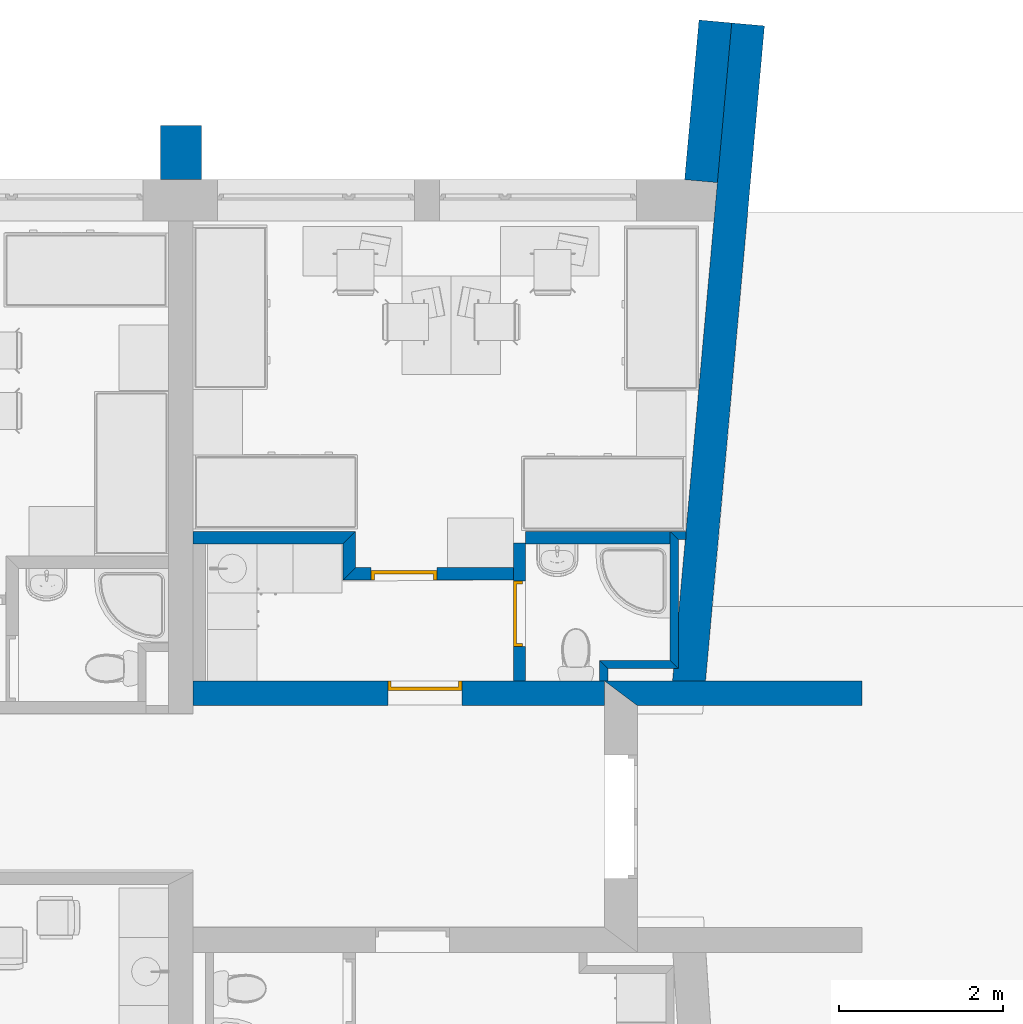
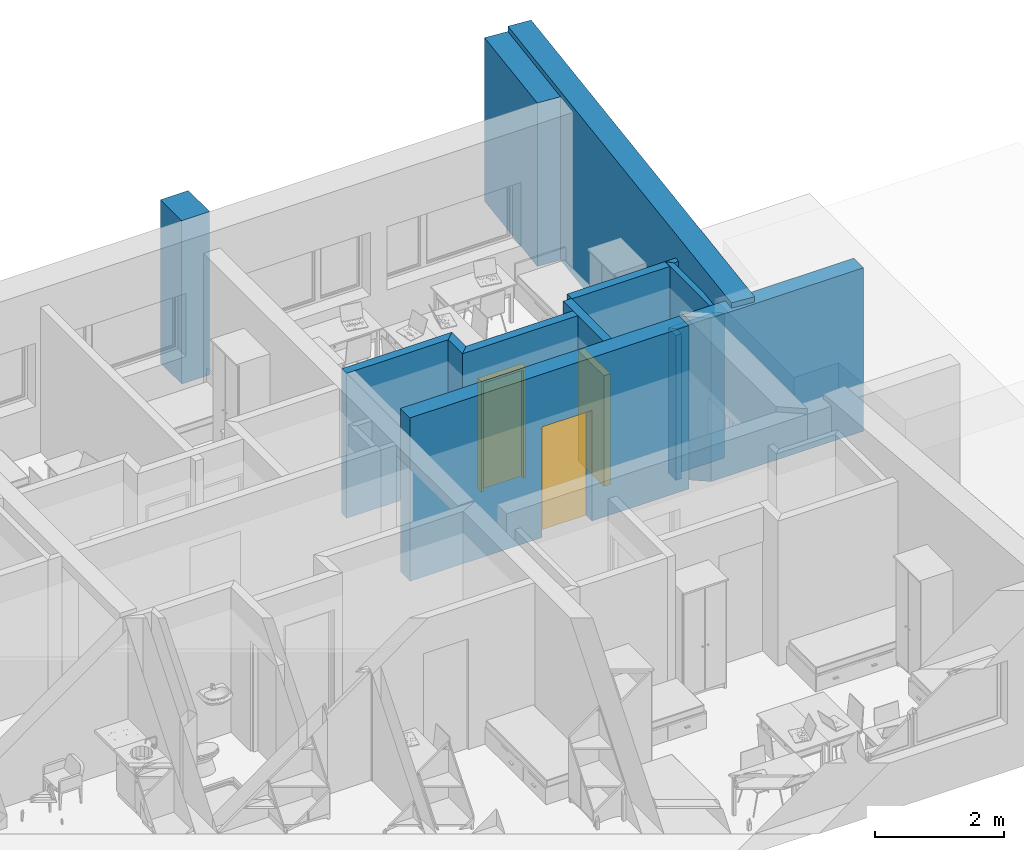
# One storey, part 36 of 172: 14 walls, 3 doors, 3 openings.
"""IFC2X3 building model written with IfcOpenShell, lengths in millimetres."""

import ifcopenshell
import ifcopenshell.guid

model = None  # the IFC model being written
_history = None  # IfcOwnerHistory: only IFC2X3 demands one
_inside = {}  # id of a spatial element -> (the spatial element, [elements in it])
_under = {}  # id of a project, library or spatial element -> (it, [spatial elements below it])
_declared = {}  # id of a project -> (the project, [libraries it declares])
_typed = {}  # id of a type object -> (the type object, [elements of that type])
_made_of = {}  # id of a material, layer set ... -> (it, [elements and type objects made of it])


def new_model(schema):
    """Start an empty IFC model of exactly this schema.

    Asked for "IFC4X3", IfcOpenShell would pick the latest addendum, in which some entities
    have other attributes; the version numbers below select the first issue.
    IFC2X3 requires an IfcOwnerHistory on every rooted entity: one is made here for all.
    """
    global model, _history
    if schema == "IFC4X3":
        model = ifcopenshell.file(schema_version=(4, 3, 0, 0))
    else:
        model = ifcopenshell.file(schema=schema)
    _inside.clear()
    _under.clear()
    _declared.clear()
    _typed.clear()
    _made_of.clear()
    _history = None
    if model.schema == "IFC2X3":
        org = make("IfcOrganization", Name="unknown")
        user = make(
            "IfcPersonAndOrganization",
            ThePerson=make("IfcPerson", FamilyName="unknown"),
            TheOrganization=org,
        )
        app = make(
            "IfcApplication",
            ApplicationDeveloper=org,
            Version="unknown",
            ApplicationFullName="unknown",
            ApplicationIdentifier="unknown",
        )
        _history = make(
            "IfcOwnerHistory",
            OwningUser=user,
            OwningApplication=app,
            ChangeAction="ADDED",
            CreationDate=0,
        )
    return model


def make(cls, **values):
    """One entity of the class cls with the attributes given. An attribute that is None is left unset."""
    return model.create_entity(
        cls, **{name: value for name, value in values.items() if value is not None}
    )


def entity(cls, *values):
    """Any entity or typed value of the class cls, its attributes in the order of the schema. None: left unset."""
    e = model.create_entity(cls)
    for i, value in enumerate(values):
        if value is not None:
            e[i] = value
    return e


def rooted(cls, **values):
    """An entity with a GlobalId (a new one), such as an element, a storey or a relation."""
    return make(cls, GlobalId=ifcopenshell.guid.new(), OwnerHistory=_history, **values)


def si_unit(unit_type, name, prefix=None):
    """IfcSIUnit, for example si_unit("LENGTHUNIT", "METRE", prefix="MILLI")."""
    return make("IfcSIUnit", UnitType=unit_type, Prefix=prefix, Name=name)


def converted_unit(unit_type, name, factor, base, dimensions=None, offset=None):
    """IfcConversionBasedUnit, such as the inch: factor (a typed value) times the base unit."""
    return make(
        "IfcConversionBasedUnit"
        if offset is None
        else "IfcConversionBasedUnitWithOffset",
        ConversionOffset=offset,
        Dimensions=None
        if dimensions is None
        else entity("IfcDimensionalExponents", *dimensions),
        UnitType=unit_type,
        Name=name,
        ConversionFactor=make(
            "IfcMeasureWithUnit", ValueComponent=factor, UnitComponent=base
        ),
    )


def money_unit(currency):
    """IfcMonetaryUnit."""
    return make("IfcMonetaryUnit", Currency=currency)


def assignment(units):
    """IfcUnitAssignment: the units of a project."""
    return None if units is None else make("IfcUnitAssignment", Units=units)


def point(xyz):
    """IfcCartesianPoint."""
    return None if xyz is None else make("IfcCartesianPoint", Coordinates=xyz)


def direction(xyz):
    """IfcDirection."""
    return None if xyz is None else make("IfcDirection", DirectionRatios=xyz)


def frame(location, z_axis=None, x_axis=None):
    """IfcAxis2Placement3D, a coordinate frame: its origin and axes. An axis left out is left unset."""
    return make(
        "IfcAxis2Placement3D",
        Location=point(location),
        Axis=direction(z_axis),
        RefDirection=direction(x_axis),
    )


def origin_with_axes():
    """The frame at (0, 0, 0) with the z axis (0, 0, 1) and the x axis (1, 0, 0) written out."""
    return frame((0.0, 0.0, 0.0), z_axis=(0.0, 0.0, 1.0), x_axis=(1.0, 0.0, 0.0))


def place(relative_to, where):
    """IfcLocalPlacement: puts the frame where relative to a parent placement (None: the world)."""
    return make(
        "IfcLocalPlacement", PlacementRelTo=relative_to, RelativePlacement=where
    )


def context(
    kind, dimensions, precision=None, world=None, true_north=None, identifier=None
):
    """IfcGeometricRepresentationContext, for example the 3D "Model" context."""
    return make(
        "IfcGeometricRepresentationContext",
        ContextIdentifier=identifier,
        ContextType=kind,
        CoordinateSpaceDimension=dimensions,
        Precision=precision,
        WorldCoordinateSystem=world,
        TrueNorth=true_north,
    )


def subcontext(parent, identifier, kind, view, scale=None):
    """IfcGeometricRepresentationSubContext, for example "Body" below "Model"."""
    return make(
        "IfcGeometricRepresentationSubContext",
        ContextIdentifier=identifier,
        ContextType=kind,
        ParentContext=parent,
        TargetScale=scale,
        TargetView=view,
    )


def project(units=None, contexts=None):
    """IfcProject with its units and contexts."""
    return rooted(
        "IfcProject",
        Name="project",
        RepresentationContexts=contexts,
        UnitsInContext=assignment(units),
    )


def spatial(cls, under=None, at=None, **own):
    """A site, building, storey or space (cls), placed at a placement, below another one or the project."""
    s = rooted(cls, ObjectPlacement=at, **own)
    if under is not None:
        _under.setdefault(under.id(), (under, []))[1].append(s)
    return s


def polyline(points):
    """IfcPolyline through the points."""
    return make("IfcPolyline", Points=[point(p) for p in points])


def outline(outer, holes=None, kind="AREA"):
    """IfcArbitraryClosedProfileDef: a profile drawn as a closed curve; with holes, ...WithVoids."""
    if holes is None:
        return make("IfcArbitraryClosedProfileDef", ProfileType=kind, OuterCurve=outer)
    return make(
        "IfcArbitraryProfileDefWithVoids",
        ProfileType=kind,
        OuterCurve=outer,
        InnerCurves=holes,
    )


def extrude(swept, where, along, depth):
    """IfcExtrudedAreaSolid: the profile swept, set in the frame where, extruded along a direction by depth."""
    return make(
        "IfcExtrudedAreaSolid",
        SweptArea=swept,
        Position=where,
        ExtrudedDirection=direction(along),
        Depth=depth,
    )


def faces_of(points, faces, orient=None, outer=None):
    """IfcFace entities. A face is a list of loops; a loop is a list of indices into points, from 0.

    orient and outer hold one flag for each loop. By default every Orientation is true, the
    first loop of a face is its IfcFaceOuterBound and the others are IfcFaceBound.
    """
    made = []
    for i, loops in enumerate(faces):
        bounds = []
        for j, loop in enumerate(loops):
            is_outer = j == 0 if outer is None else outer[i][j]
            bounds.append(
                make(
                    "IfcFaceOuterBound" if is_outer else "IfcFaceBound",
                    Bound=make("IfcPolyLoop", Polygon=[points[k] for k in loop]),
                    Orientation=True if orient is None else orient[i][j],
                )
            )
        made.append(make("IfcFace", Bounds=bounds))
    return made


def faceted_brep(points, faces, orient=None, outer=None, voids=None):
    """IfcFacetedBrep: a solid bounded by flat faces; with voids (closed shells), ...WithVoids."""
    shared = [point(p) for p in points]
    hull = make("IfcClosedShell", CfsFaces=faces_of(shared, faces, orient, outer))
    if voids is None:
        return make("IfcFacetedBrep", Outer=hull)
    return make(
        "IfcFacetedBrepWithVoids",
        Outer=hull,
        Voids=[
            make(cls, CfsFaces=faces_of(shared, fs, o, b)) for cls, fs, o, b in voids
        ],
    )


def shape(context_of_items, identifier, shape_type, items):
    """IfcShapeRepresentation: the items that make up one representation, for example the "Body"."""
    return make(
        "IfcShapeRepresentation",
        ContextOfItems=context_of_items,
        RepresentationIdentifier=identifier,
        RepresentationType=shape_type,
        Items=items,
    )


def source(mapping_origin, context_of_items, identifier, shape_type, items):
    """IfcRepresentationMap: a shape defined once, which mapped items show again and again."""
    return make(
        "IfcRepresentationMap",
        MappingOrigin=mapping_origin,
        MappedRepresentation=shape(context_of_items, identifier, shape_type, items),
    )


def transform(
    local_origin,
    x_axis=None,
    y_axis=None,
    z_axis=None,
    scale=None,
    scale2=None,
    scale3=None,
    uniform=True,
):
    """IfcCartesianTransformationOperator3D, or its non-uniform kind. x_axis, y_axis, z_axis: its Axis1, 2, 3."""
    if uniform:
        return make(
            "IfcCartesianTransformationOperator3D",
            Axis1=direction(x_axis),
            Axis2=direction(y_axis),
            LocalOrigin=point(local_origin),
            Scale=scale,
            Axis3=direction(z_axis),
        )
    return make(
        "IfcCartesianTransformationOperator3DnonUniform",
        Axis1=direction(x_axis),
        Axis2=direction(y_axis),
        LocalOrigin=point(local_origin),
        Scale=scale,
        Axis3=direction(z_axis),
        Scale2=scale2,
        Scale3=scale3,
    )


def mapped(mapping_source, mapping_target):
    """IfcMappedItem: shows the shape of a source again, moved by a transform."""
    return make(
        "IfcMappedItem", MappingSource=mapping_source, MappingTarget=mapping_target
    )


def material(Name=None, Category=None):
    """IfcMaterial."""
    return make("IfcMaterial", Name=Name, Category=Category)


def material_list(materials):
    """IfcMaterialList."""
    return make("IfcMaterialList", Materials=materials)


def layer(
    of_material, thickness, ventilated=None, Name=None, Category=None, Priority=None
):
    """IfcMaterialLayer: one layer of a wall or slab, of a material (None: an air gap)."""
    return make(
        "IfcMaterialLayer",
        Material=of_material,
        LayerThickness=thickness,
        IsVentilated=ventilated,
        Name=Name,
        Category=Category,
        Priority=Priority,
    )


def layer_set(layers, Name=None):
    """IfcMaterialLayerSet."""
    return make("IfcMaterialLayerSet", MaterialLayers=layers, LayerSetName=Name)


def layer_usage(for_layer_set, set_direction, sense, offset, extent=None):
    """IfcMaterialLayerSetUsage: how a layer set lies in its element."""
    return make(
        "IfcMaterialLayerSetUsage",
        ForLayerSet=for_layer_set,
        LayerSetDirection=set_direction,
        DirectionSense=sense,
        OffsetFromReferenceLine=offset,
        ReferenceExtent=extent,
    )


def made_of(thing, what):
    """Note that an element or type object is made of a material, layer set ...; save() writes the relation."""
    if what is not None:
        _made_of.setdefault(what.id(), (what, []))[1].append(thing)
    return thing


def type_object(cls, material=None, **own):
    """A type object (cls), such as IfcWallType, which elements share."""
    return made_of(rooted(cls, **own), material)


def element(
    cls,
    number,
    at=None,
    inside=None,
    cuts=None,
    type_object=None,
    material=None,
    context=None,
    identifier="Body",
    shape_type=None,
    held_by="IfcProductDefinitionShape",
    body=None,
    shapes=None,
    **own,
):
    """One element of the class cls, such as IfcWall. Its Tag is "e" and its number.

    at: its placement. inside: the storey or other place that contains it. cuts: it is an
    opening in that element (IfcRelVoidsElement). A single representation is given by context,
    identifier, shape_type and body (its items); several are given by shapes. held_by: the class
    of the entity that holds the representations. save() writes the other relations.
    """
    e = rooted(cls, Tag="e%d" % number, ObjectPlacement=at, **own)
    if body is not None:
        shapes = [shape(context, identifier, shape_type, body)]
    if shapes is not None:
        e.Representation = make(held_by, Representations=shapes)
    if inside is not None:
        _inside.setdefault(inside.id(), (inside, []))[1].append(e)
    if cuts is not None:
        rooted(
            "IfcRelVoidsElement", RelatingBuildingElement=cuts, RelatedOpeningElement=e
        )
    if type_object is not None:
        _typed.setdefault(type_object.id(), (type_object, []))[1].append(e)
    return made_of(e, material)


def fill(opening, filler):
    """IfcRelFillsElement: the door or window that sits in an opening."""
    return rooted(
        "IfcRelFillsElement",
        RelatingOpeningElement=opening,
        RelatedBuildingElement=filler,
    )


def aggregate(whole, parts):
    """IfcRelAggregates: a whole, such as a stair, and the parts it consists of."""
    return rooted("IfcRelAggregates", RelatingObject=whole, RelatedObjects=parts)


def save(model, path):
    """Write the relations noted so far, then the file.

    IfcRelAggregates (storeys below a building ...), IfcRelContainedInSpatialStructure (elements
    in a storey), IfcRelDefinesByType, IfcRelAssociatesMaterial and IfcRelDeclares: one each for
    every whole, place, type object, material and project.
    """
    for whole, parts in _under.values():
        aggregate(whole, parts)
    for where, things in _inside.values():
        rooted(
            "IfcRelContainedInSpatialStructure",
            RelatedElements=things,
            RelatingStructure=where,
        )
    for kind, things in _typed.values():
        rooted("IfcRelDefinesByType", RelatedObjects=things, RelatingType=kind)
    for what, things in _made_of.values():
        rooted("IfcRelAssociatesMaterial", RelatedObjects=things, RelatingMaterial=what)
    for by, libraries in _declared.values():
        rooted("IfcRelDeclares", RelatingContext=by, RelatedDefinitions=libraries)
    model.write(path)


model = new_model("IFC2X3")

# Units and contexts
model_context = context("Model", 3, precision=1e-05, world=origin_with_axes(), true_north=direction((0.0, 1.0)))
body_context = subcontext(model_context, "Body", "Model", "MODEL_VIEW")
ifc_project = project(units=[si_unit("LENGTHUNIT", "METRE", prefix="MILLI"), si_unit("AREAUNIT", "SQUARE_METRE"), si_unit("VOLUMEUNIT", "CUBIC_METRE"), converted_unit("PLANEANGLEUNIT", "DEGREE", entity("IfcPlaneAngleMeasure", 0.0174532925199), si_unit("PLANEANGLEUNIT", "RADIAN"), dimensions=[0, 0, 0, 0, 0, 0, 0]), si_unit("SOLIDANGLEUNIT", "STERADIAN"), money_unit("USD"), converted_unit("TIMEUNIT", "Year", entity("IfcTimeMeasure", 31556926.0), si_unit("TIMEUNIT", "SECOND"), dimensions=[0, 0, 0, 0, 0, 0, 0]), si_unit("MASSUNIT", "GRAM"), si_unit("THERMODYNAMICTEMPERATUREUNIT", "DEGREE_CELSIUS"), si_unit("LUMINOUSINTENSITYUNIT", "LUMEN")], contexts=[model_context])

# Site, building, storey
site_placement = place(None, origin_with_axes())
site = spatial("IfcSite", under=ifc_project, at=site_placement, Name="Site", CompositionType="ELEMENT")
building_placement = place(site_placement, origin_with_axes())
building = spatial("IfcBuilding", under=site, at=building_placement, Name="Building", CompositionType="ELEMENT")
storey_placement = place(building_placement, frame((0.0, 0.0, 3200.0), z_axis=(0.0, 0.0, 1.0), x_axis=(1.0, 0.0, 0.0)))
storey = spatial("IfcBuildingStorey", under=building, at=storey_placement, Name="3KORRUS", CompositionType="ELEMENT", Elevation=3200.0)

# Walls
ifc_material_1 = material(Name="Olemasolevad seinad tellis, uus viimistlus")
ifc_layer_1 = layer(ifc_material_1, 400.0, ventilated="UNKNOWN")
ifc_layer_set_1 = layer_set([ifc_layer_1], Name="Olemasolevad seinad tellis, uus viimistlus 400")
ifc_layer_usage_1 = layer_usage(ifc_layer_set_1, "AXIS2", "POSITIVE", -400.0)
wall_type_1 = type_object("IfcWallType", Name="Olemasolevad seinad tellis, uus viimistlus 400", PredefinedType="NOTDEFINED")
wall_1_placement = place(storey_placement, frame((17988.7454058, -4639.6041088, 0.0), z_axis=(0.0, 0.0, 1.0), x_axis=(0.0895981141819, 0.995978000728, 0.0)))
element("IfcWallStandardCase", 1, at=wall_1_placement, inside=storey, type_object=wall_type_1, material=ifc_layer_usage_1, Name="VS1", ObjectType="VS1", context=body_context, shape_type="SweptSolid", body=[
    extrude(outline(polyline([(0.0, -400.0), (1950.69331637, -400.0), (1950.69331637, 0.0), (0.0, 0.0), (0.0, -400.0)])), origin_with_axes(), (0.0, 0.0, 1.0), 3100.0),
])
ifc_layer_usage_2 = layer_usage(ifc_layer_set_1, "AXIS2", "POSITIVE", 0.0)
wall_2_placement = place(storey_placement, frame((18220.0063762, -10997.6526712, 0.0), z_axis=(0.0, 0.0, 1.0), x_axis=(0.0895981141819, 0.995978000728, 0.0)))
element("IfcWallStandardCase", 2, at=wall_2_placement, inside=storey, type_object=wall_type_1, material=ifc_layer_usage_2, Name="VS1", ObjectType="VS1", context=body_context, shape_type="SweptSolid", body=[
    extrude(outline(polyline([(0.0, 0.0), (8262.44926526, 0.0), (8262.44926526, 400.0), (0.0, 400.0), (0.0, 0.0)])), origin_with_axes(), (0.0, 0.0, 1.0), 3200.0),
])
ifc_layer_2 = layer(ifc_material_1, 500.0, ventilated="UNKNOWN")
ifc_layer_set_2 = layer_set([ifc_layer_2], Name="Olemasolevad seinad tellis, uus viimistlus 500")
ifc_layer_usage_3 = layer_usage(ifc_layer_set_2, "AXIS2", "POSITIVE", -100.0)
wall_type_2 = type_object("IfcWallType", Name="Olemasolevad seinad tellis, uus viimistlus 500", PredefinedType="NOTDEFINED")
wall_3_placement = place(storey_placement, frame((12009.7032967, -4639.6041088, 0.0), z_axis=(0.0, 0.0, 1.0), x_axis=(0.0, 1.0, 0.0)))
element("IfcWallStandardCase", 3, at=wall_3_placement, inside=storey, type_object=wall_type_2, material=ifc_layer_usage_3, Name="VS1", ObjectType="VS1", context=body_context, shape_type="SweptSolid", body=[
    extrude(outline(polyline([(0.0, -100.0), (657.402041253, -100.0), (657.402041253, 400.0), (0.0, 400.0), (0.0, -100.0)])), origin_with_axes(), (0.0, 0.0, 1.0), 3100.0),
])
ifc_material_2 = material(Name="UmbKipsplaat")
ifc_layer_3 = layer(ifc_material_2, 13.0, ventilated="UNKNOWN")
ifc_layer_4 = layer(ifc_material_2, 13.0, ventilated="UNKNOWN")
ifc_material_3 = material(Name="SOOJUSTUS MINERAALVILL")
ifc_layer_5 = layer(ifc_material_3, 98.0, ventilated="UNKNOWN")
ifc_layer_6 = layer(ifc_material_2, 13.0, ventilated="UNKNOWN")
ifc_layer_7 = layer(ifc_material_2, 13.0, ventilated="UNKNOWN")
ifc_layer_set_3 = layer_set([ifc_layer_3, ifc_layer_4, ifc_layer_5, ifc_layer_6, ifc_layer_7], Name="kipssein150")
ifc_layer_usage_4 = layer_usage(ifc_layer_set_3, "AXIS2", "POSITIVE", -150.0)
wall_type_3 = type_object("IfcWallType", Name="kipssein150 150", PredefinedType="NOTDEFINED")
wall_4_placement = place(storey_placement, frame((13984.2564771, -9069.3690093, 0.0), z_axis=(0.0, 0.0, 1.0), x_axis=(0.0, -1.0, 0.0)))
element("IfcWallStandardCase", 4, at=wall_4_placement, inside=storey, type_object=wall_type_3, material=ifc_layer_usage_4, Name="SS1", ObjectType="SS1", context=body_context, shape_type="SweptSolid", body=[
    extrude(outline(polyline([(0.0, -150.0), (440.51563414, -150.0), (290.51563414, 0.0), (-150.0, 0.0), (0.0, -150.0)])), origin_with_axes(), (0.0, 0.0, 1.0), 2750.0),
])

# Wall, opening, door
ifc_layer_usage_5 = layer_usage(ifc_layer_set_3, "AXIS2", "POSITIVE", 0.0)
wall_5_placement = place(storey_placement, frame((15903.8738504, -9057.3690093, 0.0), z_axis=(0.0, 0.0, 1.0), x_axis=(0.0, -1.0, 0.0)))
wall_5 = element("IfcWallStandardCase", 5, at=wall_5_placement, inside=storey, type_object=wall_type_3, material=ifc_layer_usage_5, Name="SS1", ObjectType="SS1", context=body_context, shape_type="SweptSolid", body=[
    extrude(outline(polyline([(0.0, 0.0), (1682.2350995, 0.0), (1682.2350995, 150.0), (0.0, 150.0), (0.0, 0.0)])), origin_with_axes(), (0.0, 0.0, 1.0), 2750.0),
])
opening_1_placement = place(wall_5_placement, frame((863.911387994, 0.0, 0.0), z_axis=(0.0, 0.0, 1.0), x_axis=(1.0, 0.0, 0.0)))
opening_1 = element("IfcOpeningElement", 6, at=opening_1_placement, cuts=wall_5, Name="SU3-3", context=body_context, shape_type="SweptSolid", body=[
    extrude(outline(polyline([(-400.0, -2100.0), (400.0, -2100.0), (400.0, 0.0), (-400.0, 0.0), (-400.0, -2100.0)])), frame((0.0, 150.0, 0.0), z_axis=(0.0, 1.0, 0.0), x_axis=(1.0, 0.0, 0.0)), (0.0, 0.0, -1.0), 450.0),
])
ifc_material_4 = material(Name="Background")
ifc_material_list = material_list([ifc_material_4])
door_style_1 = type_object("IfcDoorStyle", Name="Door 19", ConstructionType="NOTDEFINED", OperationType="SINGLE_SWING_LEFT", ParameterTakesPrecedence=False, Sizeable=False)
shared_shape_1 = source(origin_with_axes(), body_context, "Body", "Brep", [
    faceted_brep([(360.0, -40.0, 0.0), (360.0, -115.0, 0.0), (360.0, -115.0, 2060.0), (360.0, -40.0, 2060.0), (372.0, -40.0, 0.0), (372.0, 0.0, 0.0), (400.0, 0.0, 0.0), (400.0, -115.0, 0.0), (400.0, -115.0, 2060.0), (372.0, -40.0, 2060.0), (400.0, 0.0, 2060.0), (372.0, 0.0, 2060.0)], [[[0, 1, 2, 3]], [[4, 5, 6, 7, 1, 0]], [[2, 1, 7, 8]], [[9, 3, 2, 8, 10, 11]], [[9, 4, 0, 3]], [[11, 5, 4, 9]], [[11, 10, 6, 5]], [[7, 6, 10, 8]]]),
    faceted_brep([(-372.0, -40.0, 2060.0), (-372.0, 0.0, 2060.0), (-400.0, 0.0, 2060.0), (-400.0, -115.0, 2060.0), (-360.0, -115.0, 2060.0), (-360.0, -40.0, 2060.0), (-372.0, -40.0, 0.0), (-372.0, 0.0, 0.0), (-400.0, 0.0, 0.0), (-400.0, -115.0, 0.0), (-360.0, -115.0, 0.0), (-360.0, -40.0, 0.0)], [[[0, 1, 2, 3, 4, 5]], [[0, 6, 7, 1]], [[7, 8, 2, 1]], [[3, 2, 8, 9]], [[4, 3, 9, 10]], [[5, 4, 10, 11]], [[5, 11, 6, 0]], [[6, 11, 10, 9, 8, 7]]]),
    faceted_brep([(372.0, 0.0, 2072.0), (-372.0, 0.0, 2072.0), (-372.0, 0.0, 2060.0), (-400.0, 0.0, 2060.0), (-400.0, 0.0, 2100.0), (400.0, 0.0, 2100.0), (400.0, 0.0, 2060.0), (372.0, 0.0, 2060.0), (372.0, -40.0, 2072.0), (-372.0, -40.0, 2072.0), (-372.0, -40.0, 2060.0), (-360.0, -40.0, 2060.0), (-360.0, -115.0, 2060.0), (-400.0, -115.0, 2060.0), (-400.0, -115.0, 2100.0), (400.0, -115.0, 2100.0), (400.0, -115.0, 2060.0), (372.0, -40.0, 2060.0), (360.0, -115.0, 2060.0), (360.0, -40.0, 2060.0)], [[[0, 1, 2, 3, 4, 5, 6, 7]], [[0, 8, 9, 1]], [[1, 9, 10, 2]], [[10, 11, 12, 13, 3, 2]], [[14, 4, 3, 13]], [[15, 5, 4, 14]], [[16, 6, 5, 15]], [[17, 7, 6, 16, 18, 19]], [[7, 17, 8, 0]], [[10, 9, 8, 17, 19, 11]], [[19, 18, 12, 11]], [[13, 12, 18, 16, 15, 14]]]),
    faceted_brep([(-372.0, 0.0, 0.0), (372.0, 0.0, 0.0), (372.0, -40.0, 0.0), (-372.0, -40.0, 0.0), (-372.0, 0.0, 2072.0), (372.0, 0.0, 2072.0), (372.0, -40.0, 2072.0), (-372.0, -40.0, 2072.0)], [[[0, 1, 2, 3]], [[0, 4, 5, 1]], [[1, 5, 6, 2]], [[3, 2, 6, 7]], [[4, 0, 3, 7]], [[5, 4, 7, 6]]]),
])
door_1_placement = place(opening_1_placement, frame((400.0, 0.0, 0.0), z_axis=(0.0, 0.0, 1.0), x_axis=(-1.0, 0.0, 0.0)))
door_1 = element("IfcDoor", 7, at=door_1_placement, inside=storey, type_object=door_style_1, material=ifc_material_list, Name="SU3-3", ObjectType="WC-uks", OverallHeight=2100.0, OverallWidth=800.0, context=body_context, shape_type="MappedRepresentation", body=[
    mapped(shared_shape_1, transform((400.0, 0.0, 0.0))),
])
fill(opening_1, door_1)

# Walls
ifc_layer_usage_6 = layer_usage(ifc_layer_set_3, "AXIS2", "POSITIVE", 0.0)
wall_6_placement = place(storey_placement, frame((15903.8738504, -9070.3690093, 0.0), z_axis=(0.0, 0.0, 1.0), x_axis=(1.0, 0.0, 0.0)))
element("IfcWallStandardCase", 8, at=wall_6_placement, inside=storey, type_object=wall_type_3, material=ifc_layer_usage_6, Name="SS1", ObjectType="SS1", context=body_context, shape_type="SweptSolid", body=[
    extrude(outline(polyline([(150.0, 0.0), (1906.58804347, 0.0), (1906.58804347, 150.0), (150.0, 150.0), (150.0, 0.0)])), origin_with_axes(), (0.0, 0.0, 1.0), 2750.0),
])
ifc_layer_usage_7 = layer_usage(ifc_layer_set_3, "AXIS2", "POSITIVE", -150.0)
wall_7_placement = place(storey_placement, frame((13984.2564771, -9069.3690093, 0.0), z_axis=(0.0, 0.0, 1.0), x_axis=(-1.0, 0.0, 0.0)))
element("IfcWallStandardCase", 9, at=wall_7_placement, inside=storey, type_object=wall_type_3, material=ifc_layer_usage_7, Name="SS1", ObjectType="SS1", context=body_context, shape_type="SweptSolid", body=[
    extrude(outline(polyline([(0.0, -150.0), (1974.5531804, -150.0), (1974.5531804, 0.0), (150.0, 0.0), (0.0, -150.0)])), origin_with_axes(), (0.0, 0.0, 1.0), 2750.0),
])

# Wall, opening, door
ifc_layer_usage_8 = layer_usage(ifc_layer_set_3, "AXIS2", "POSITIVE", 0.0)
wall_8_placement = place(storey_placement, frame((13984.2564771, -9509.88464344, 0.0), z_axis=(0.0, 0.0, 1.0), x_axis=(1.0, 0.0, 0.0)))
wall_8 = element("IfcWallStandardCase", 10, at=wall_8_placement, inside=storey, type_object=wall_type_3, material=ifc_layer_usage_8, Name="SS1", ObjectType="SS1", context=body_context, shape_type="SweptSolid", body=[
    extrude(outline(polyline([(-150.0, 0.0), (1919.6173733, 0.0), (1919.6173733, 150.0), (0.0, 150.0), (-150.0, 0.0)])), origin_with_axes(), (0.0, 0.0, 1.0), 2750.0),
])
opening_2_placement = place(wall_8_placement, frame((589.799174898, 0.0, 0.0), z_axis=(0.0, 0.0, 1.0), x_axis=(1.0, 0.0, 0.0)))
opening_2 = element("IfcOpeningElement", 11, at=opening_2_placement, cuts=wall_8, Name="SU3-4", context=body_context, shape_type="SweptSolid", body=[
    extrude(outline(polyline([(-400.0, 0.0), (400.0, 0.0), (400.0, 2100.0), (-400.0, 2100.0), (-400.0, 0.0)])), frame((0.0, 150.0, 0.0), z_axis=(0.0, -1.0, 0.0), x_axis=(1.0, 0.0, 0.0)), (0.0, 0.0, 1.0), 450.0),
])
door_style_2 = type_object("IfcDoorStyle", Name="Door 19", ConstructionType="NOTDEFINED", OperationType="SINGLE_SWING_RIGHT", ParameterTakesPrecedence=False, Sizeable=False)
shared_shape_2 = source(origin_with_axes(), body_context, "Body", "Brep", [
    faceted_brep([(-360.0, -75.0, 0.0), (-360.0, -75.0, 2060.0), (-360.0, -150.0, 2060.0), (-360.0, -150.0, 0.0), (-372.0, -75.0, 2060.0), (-372.0, -75.0, 0.0), (-372.0, -35.0, 2060.0), (-400.0, -35.0, 2060.0), (-400.0, -150.0, 2060.0), (-400.0, -150.0, 0.0), (-400.0, -35.0, 0.0), (-372.0, -35.0, 0.0)], [[[0, 1, 2, 3]], [[4, 1, 0, 5]], [[4, 6, 7, 8, 2, 1]], [[2, 8, 9, 3]], [[5, 0, 3, 9, 10, 11]], [[6, 4, 5, 11]], [[6, 11, 10, 7]], [[9, 8, 7, 10]]]),
    faceted_brep([(372.0, -75.0, 2060.0), (360.0, -75.0, 2060.0), (360.0, -150.0, 2060.0), (400.0, -150.0, 2060.0), (400.0, -35.0, 2060.0), (372.0, -35.0, 2060.0), (372.0, -75.0, 0.0), (360.0, -75.0, 0.0), (360.0, -150.0, 0.0), (400.0, -150.0, 0.0), (400.0, -35.0, 0.0), (372.0, -35.0, 0.0)], [[[0, 1, 2, 3, 4, 5]], [[1, 0, 6, 7]], [[1, 7, 8, 2]], [[2, 8, 9, 3]], [[3, 9, 10, 4]], [[11, 5, 4, 10]], [[0, 5, 11, 6]], [[6, 11, 10, 9, 8, 7]]]),
    faceted_brep([(-372.0, -35.0, 2072.0), (-372.0, -35.0, 2060.0), (-400.0, -35.0, 2060.0), (-400.0, -35.0, 2100.0), (400.0, -35.0, 2100.0), (400.0, -35.0, 2060.0), (372.0, -35.0, 2060.0), (372.0, -35.0, 2072.0), (-372.0, -75.0, 2072.0), (-372.0, -75.0, 2060.0), (-360.0, -75.0, 2060.0), (-360.0, -150.0, 2060.0), (-400.0, -150.0, 2060.0), (-400.0, -150.0, 2100.0), (400.0, -150.0, 2100.0), (400.0, -150.0, 2060.0), (372.0, -75.0, 2060.0), (360.0, -150.0, 2060.0), (360.0, -75.0, 2060.0), (372.0, -75.0, 2072.0)], [[[0, 1, 2, 3, 4, 5, 6, 7]], [[1, 0, 8, 9]], [[9, 10, 11, 12, 2, 1]], [[12, 13, 3, 2]], [[13, 14, 4, 3]], [[14, 15, 5, 4]], [[16, 6, 5, 15, 17, 18]], [[7, 6, 16, 19]], [[0, 7, 19, 8]], [[16, 18, 10, 9, 8, 19]], [[10, 18, 17, 11]], [[15, 14, 13, 12, 11, 17]]]),
    faceted_brep([(372.0, -35.0, 0.0), (372.0, -75.0, 0.0), (-372.0, -75.0, 0.0), (-372.0, -35.0, 0.0), (372.0, -35.0, 2072.0), (372.0, -75.0, 2072.0), (-372.0, -75.0, 2072.0), (-372.0, -35.0, 2072.0)], [[[0, 1, 2, 3]], [[4, 5, 1, 0]], [[1, 5, 6, 2]], [[3, 2, 6, 7]], [[0, 3, 7, 4]], [[7, 6, 5, 4]]]),
])
door_2_placement = place(opening_2_placement, frame((-400.0, 0.0, 0.0), z_axis=(0.0, 0.0, 1.0), x_axis=(1.0, 0.0, 0.0)))
door_2 = element("IfcDoor", 12, at=door_2_placement, inside=storey, type_object=door_style_2, material=ifc_material_list, Name="SU3-4", ObjectType="Toa uks", OverallHeight=2100.0, OverallWidth=800.0, context=body_context, shape_type="MappedRepresentation", body=[
    mapped(shared_shape_2, transform((400.0, 150.0, 0.0))),
])
fill(opening_2, door_2)

# Wall
ifc_material_5 = material(Name="Olemasolevad seinad tellis, uus viimistlus")
ifc_layer_8 = layer(ifc_material_5, 300.0, ventilated="UNKNOWN")
ifc_layer_set_4 = layer_set([ifc_layer_8], Name="Olemasolevad seinad tellis, uus viimistlus  300")
ifc_layer_usage_9 = layer_usage(ifc_layer_set_4, "AXIS2", "POSITIVE", -300.0)
wall_type_4 = type_object("IfcWallType", Name="Olemasolevad seinad tellis, uus viimistlus  300", PredefinedType="NOTDEFINED")
wall_9_placement = place(storey_placement, frame((20146.0590664, -11039.6041088, 0.0), z_axis=(0.0, 0.0, 1.0), x_axis=(-1.0, 0.0, 0.0)))
element("IfcWallStandardCase", 13, at=wall_9_placement, inside=storey, type_object=wall_type_4, material=ifc_layer_usage_9, Name="VS1", ObjectType="OLEMASOLEVVÄLISSEIN LISASOOJUSTUSEGA", context=body_context, shape_type="SweptSolid", body=[
    extrude(outline(polyline([(0.0, -300.0), (3130.8790967, -300.0), (2730.8790967, 0.0), (0.0, 0.0), (0.0, -300.0)])), origin_with_axes(), (0.0, 0.0, 1.0), 3100.0),
])

# Wall, opening, door
ifc_layer_usage_10 = layer_usage(ifc_layer_set_4, "AXIS2", "POSITIVE", -300.0)
wall_10_placement = place(storey_placement, frame((17015.1799697, -11039.6041088, 0.0), z_axis=(0.0, 0.0, 1.0), x_axis=(-1.0, 0.0, 0.0)))
wall_10 = element("IfcWallStandardCase", 14, at=wall_10_placement, inside=storey, type_object=wall_type_4, material=ifc_layer_usage_10, Name="SS2", ObjectType="OLEMASOLEV KANDESEIN", context=body_context, shape_type="SweptSolid", body=[
    extrude(outline(polyline([(0.0, -300.0), (5005.476673, -300.0), (5005.476673, 0.0), (0.0, 0.0), (0.0, -300.0)])), origin_with_axes(), (0.0, 0.0, 1.0), 3100.0),
])
opening_3_placement = place(wall_10_placement, frame((2187.8453995, 0.0, 0.0), z_axis=(0.0, 0.0, 1.0), x_axis=(1.0, 0.0, 0.0)))
opening_3 = element("IfcOpeningElement", 15, at=opening_3_placement, cuts=wall_10, Name="SU2-6", context=body_context, shape_type="SweptSolid", body=[
    extrude(outline(polyline([(-450.0, 0.0), (450.0, 0.0), (450.0, 2100.0), (-450.0, 2100.0), (-450.0, 0.0)])), frame((0.0, 300.0, 0.0), z_axis=(0.0, 1.0, 0.0), x_axis=(-1.0, 0.0, 0.0)), (0.0, 0.0, -1.0), 900.0),
])
door_style_3 = type_object("IfcDoorStyle", Name="Door 19", ConstructionType="NOTDEFINED", OperationType="SINGLE_SWING_LEFT", ParameterTakesPrecedence=False, Sizeable=False)
shared_shape_3 = source(origin_with_axes(), body_context, "Body", "Brep", [
    faceted_brep([(410.0, -225.0, 0.0), (410.0, -300.0, 0.0), (410.0, -300.0, 2060.0), (410.0, -225.0, 2060.0), (422.0, -225.0, 0.0), (422.0, -185.0, 0.0), (450.0, -185.0, 0.0), (450.0, -300.0, 0.0), (450.0, -300.0, 2060.0), (422.0, -225.0, 2060.0), (450.0, -185.0, 2060.0), (422.0, -185.0, 2060.0)], [[[0, 1, 2, 3]], [[4, 5, 6, 7, 1, 0]], [[2, 1, 7, 8]], [[9, 3, 2, 8, 10, 11]], [[9, 4, 0, 3]], [[11, 5, 4, 9]], [[11, 10, 6, 5]], [[7, 6, 10, 8]]]),
    faceted_brep([(-422.0, -225.0, 2060.0), (-422.0, -185.0, 2060.0), (-450.0, -185.0, 2060.0), (-450.0, -300.0, 2060.0), (-410.0, -300.0, 2060.0), (-410.0, -225.0, 2060.0), (-422.0, -225.0, 0.0), (-422.0, -185.0, 0.0), (-450.0, -185.0, 0.0), (-450.0, -300.0, 0.0), (-410.0, -300.0, 0.0), (-410.0, -225.0, 0.0)], [[[0, 1, 2, 3, 4, 5]], [[0, 6, 7, 1]], [[7, 8, 2, 1]], [[3, 2, 8, 9]], [[4, 3, 9, 10]], [[5, 4, 10, 11]], [[5, 11, 6, 0]], [[6, 11, 10, 9, 8, 7]]]),
    faceted_brep([(422.0, -185.0, 2072.0), (-422.0, -185.0, 2072.0), (-422.0, -185.0, 2060.0), (-450.0, -185.0, 2060.0), (-450.0, -185.0, 2100.0), (450.0, -185.0, 2100.0), (450.0, -185.0, 2060.0), (422.0, -185.0, 2060.0), (422.0, -225.0, 2072.0), (-422.0, -225.0, 2072.0), (-422.0, -225.0, 2060.0), (-410.0, -225.0, 2060.0), (-410.0, -300.0, 2060.0), (-450.0, -300.0, 2060.0), (-450.0, -300.0, 2100.0), (450.0, -300.0, 2100.0), (450.0, -300.0, 2060.0), (422.0, -225.0, 2060.0), (410.0, -300.0, 2060.0), (410.0, -225.0, 2060.0)], [[[0, 1, 2, 3, 4, 5, 6, 7]], [[0, 8, 9, 1]], [[1, 9, 10, 2]], [[10, 11, 12, 13, 3, 2]], [[14, 4, 3, 13]], [[15, 5, 4, 14]], [[16, 6, 5, 15]], [[17, 7, 6, 16, 18, 19]], [[7, 17, 8, 0]], [[10, 9, 8, 17, 19, 11]], [[19, 18, 12, 11]], [[13, 12, 18, 16, 15, 14]]]),
    faceted_brep([(-422.0, -185.0, 0.0), (422.0, -185.0, 0.0), (422.0, -225.0, 0.0), (-422.0, -225.0, 0.0), (-422.0, -185.0, 2072.0), (422.0, -185.0, 2072.0), (422.0, -225.0, 2072.0), (-422.0, -225.0, 2072.0)], [[[0, 1, 2, 3]], [[0, 4, 5, 1]], [[1, 5, 6, 2]], [[3, 2, 6, 7]], [[4, 0, 3, 7]], [[5, 4, 7, 6]]]),
])
door_3_placement = place(opening_3_placement, frame((-450.0, 0.0, 0.0), z_axis=(0.0, 0.0, 1.0), x_axis=(1.0, 0.0, 0.0)))
door_3 = element("IfcDoor", 16, at=door_3_placement, inside=storey, type_object=door_style_3, material=ifc_material_list, Name="SU2-6", ObjectType="Korteri välisuks", OverallHeight=2100.0, OverallWidth=900.0, context=body_context, shape_type="MappedRepresentation", body=[
    mapped(shared_shape_3, transform((450.0, 0.0, 0.0))),
])
fill(opening_3, door_3)

# Walls
ifc_material_6 = material(Name="krohv")
ifc_layer_9 = layer(ifc_material_6, 2.0, ventilated="UNKNOWN")
ifc_layer_10 = layer(ifc_material_6, 10.0, ventilated="UNKNOWN")
ifc_material_7 = material(Name="Kergplokk")
ifc_layer_11 = layer(ifc_material_7, 76.0, ventilated="UNKNOWN")
ifc_layer_12 = layer(ifc_material_6, 10.0, ventilated="UNKNOWN")
ifc_layer_13 = layer(ifc_material_6, 2.0, ventilated="UNKNOWN")
ifc_layer_set_5 = layer_set([ifc_layer_9, ifc_layer_10, ifc_layer_11, ifc_layer_12, ifc_layer_13], Name="Kergplokk Bauroc 100")
ifc_layer_usage_11 = layer_usage(ifc_layer_set_5, "AXIS2", "POSITIVE", -100.0)
wall_type_5 = type_object("IfcWallType", Name="Kergplokk Bauroc 100 100", PredefinedType="NOTDEFINED")
wall_11_placement = place(storey_placement, frame((16953.7124473, -10739.6041088, 0.0), z_axis=(0.0, 0.0, 1.0), x_axis=(0.0, 1.0, 0.0)))
element("IfcWallStandardCase", 17, at=wall_11_placement, inside=storey, type_object=wall_type_5, material=ifc_layer_usage_11, Name="SS2", ObjectType="SAHTISEIN", context=body_context, shape_type="SweptSolid", body=[
    extrude(outline(polyline([(0.0, -100.0), (150.0, -100.0), (250.0, 0.0), (0.0, 0.0), (0.0, -100.0)])), origin_with_axes(), (0.0, 0.0, 1.0), 2750.0),
])
ifc_layer_usage_12 = layer_usage(ifc_layer_set_5, "AXIS2", "POSITIVE", -100.0)
wall_12_placement = place(storey_placement, frame((17813.4618939, -10589.6041088, 0.0), z_axis=(0.0, 0.0, 1.0), x_axis=(-1.0, 0.0, 0.0)))
element("IfcWallStandardCase", 18, at=wall_12_placement, inside=storey, type_object=wall_type_5, material=ifc_layer_usage_12, Name="SS2", ObjectType="SAHTISEIN", context=body_context, shape_type="SweptSolid", body=[
    extrude(outline(polyline([(0.0, -100.0), (859.7494466, -100.0), (759.7494466, 0.0), (-100.0, 0.0), (0.0, -100.0)])), origin_with_axes(), (0.0, 0.0, 1.0), 2750.0),
])
ifc_layer_usage_13 = layer_usage(ifc_layer_set_5, "AXIS2", "POSITIVE", -100.0)
wall_13_placement = place(storey_placement, frame((17813.4618939, -10589.6041088, 0.0), z_axis=(0.0, 0.0, 1.0), x_axis=(0.0, 1.0, 0.0)))
element("IfcWallStandardCase", 19, at=wall_13_placement, inside=storey, type_object=wall_type_5, material=ifc_layer_usage_13, Name="SS2", ObjectType="SAHTISEIN", context=body_context, shape_type="SweptSolid", body=[
    extrude(outline(polyline([(0.0, -100.0), (1569.2350995, -100.0), (1669.2350995, 0.0), (100.0, 0.0), (0.0, -100.0)])), origin_with_axes(), (0.0, 0.0, 1.0), 2750.0),
])
ifc_layer_usage_14 = layer_usage(ifc_layer_set_5, "AXIS2", "POSITIVE", -100.0)
wall_14_placement = place(storey_placement, frame((18005.2633787, -9020.3690093, 0.0), z_axis=(0.0, 0.0, 1.0), x_axis=(-1.0, 0.0, 0.0)))
element("IfcWallStandardCase", 20, at=wall_14_placement, inside=storey, type_object=wall_type_5, material=ifc_layer_usage_14, Name="SS2", ObjectType="SAHTISEIN", context=body_context, shape_type="SweptSolid", body=[
    extrude(outline(polyline([(0.0, -100.0), (191.8014848, -100.0), (91.8014848, 0.0), (0.0, 0.0), (0.0, -100.0)])), origin_with_axes(), (0.0, 0.0, 1.0), 2750.0),
])

save(model, "model.ifc")
